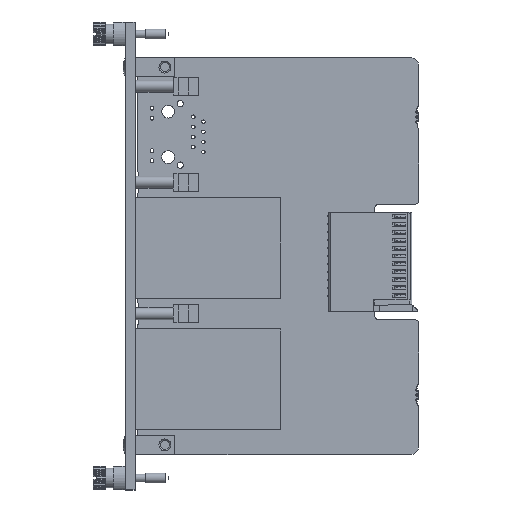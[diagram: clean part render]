
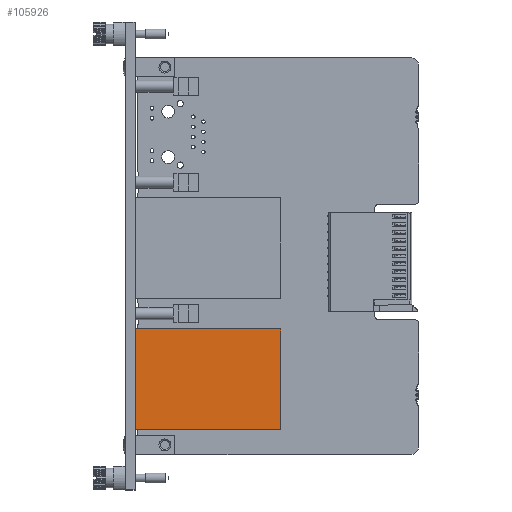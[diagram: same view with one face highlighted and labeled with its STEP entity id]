
A CAD part, top view. The second image highlights one B-rep face of the part: STEP entity #105926.
In plain terms, the highlighted planar face has unit normal (0, 0, 1).
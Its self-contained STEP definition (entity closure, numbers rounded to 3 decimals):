
#2052=PLANE('',#111871);
#6424=FACE_OUTER_BOUND('',#11963,.T.);
#11963=EDGE_LOOP('',(#70873,#70874,#70875,#70876));
#18035=LINE('',#154025,#29138);
#18038=LINE('',#154031,#29141);
#18041=LINE('',#154036,#29144);
#18046=LINE('',#154043,#29149);
#29138=VECTOR('',#122933,10.);
#29141=VECTOR('',#122938,10.);
#29144=VECTOR('',#122943,10.);
#29149=VECTOR('',#122950,10.);
#43216=VERTEX_POINT('',#154022);
#43217=VERTEX_POINT('',#154024);
#43219=VERTEX_POINT('',#154030);
#43220=VERTEX_POINT('',#154035);
#53879=EDGE_CURVE('',#43217,#43216,#18035,.T.);
#53882=EDGE_CURVE('',#43219,#43217,#18038,.T.);
#53885=EDGE_CURVE('',#43220,#43219,#18041,.T.);
#53890=EDGE_CURVE('',#43216,#43220,#18046,.T.);
#70873=ORIENTED_EDGE('',*,*,#53890,.T.);
#70874=ORIENTED_EDGE('',*,*,#53885,.T.);
#70875=ORIENTED_EDGE('',*,*,#53882,.T.);
#70876=ORIENTED_EDGE('',*,*,#53879,.T.);
#105926=ADVANCED_FACE('',(#6424),#2052,.T.);
#111871=AXIS2_PLACEMENT_3D('',#154045,#122953,#122954);
#122933=DIRECTION('',(0.,-1.,0.));
#122938=DIRECTION('',(-1.,0.,0.));
#122943=DIRECTION('',(0.,1.,0.));
#122950=DIRECTION('',(1.,0.,0.));
#122953=DIRECTION('center_axis',(0.,0.,
1.));
#122954=DIRECTION('ref_axis',(1.,0.,0.));
#154022=CARTESIAN_POINT('',(-38.33,-43.795,11.9));
#154024=CARTESIAN_POINT('',(-38.33,-18.395,11.9));
#154025=CARTESIAN_POINT('',(-38.33,-43.795,11.9));
#154030=CARTESIAN_POINT('',(0.79,-18.395,11.9));
#154031=CARTESIAN_POINT('',(-38.33,-18.395,11.9));
#154035=CARTESIAN_POINT('',(0.79,-43.795,11.9));
#154036=CARTESIAN_POINT('',(0.79,-18.395,11.9));
#154043=CARTESIAN_POINT('',(0.79,-43.795,11.9));
#154045=CARTESIAN_POINT('Origin',(-18.77,-31.095,11.9));
